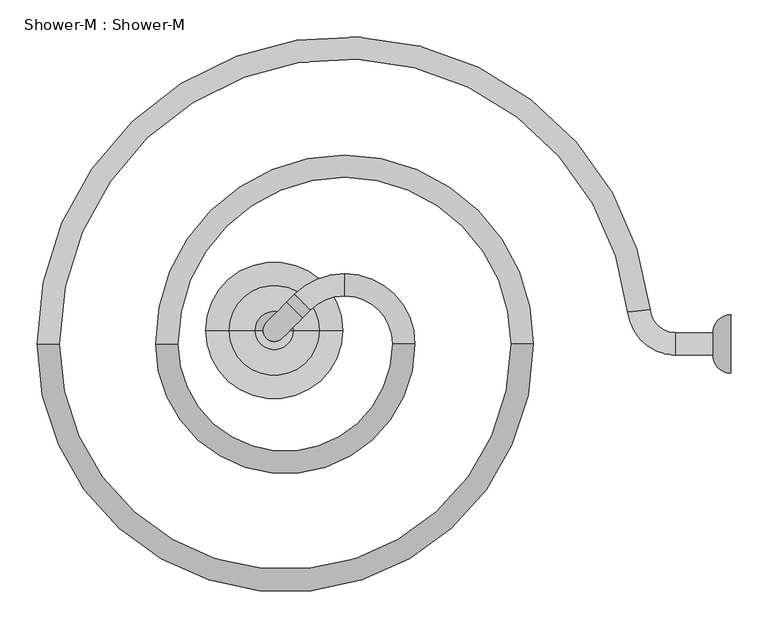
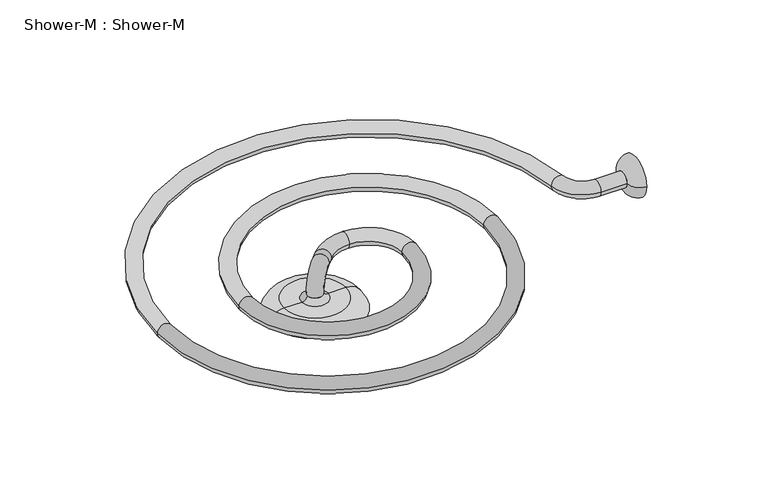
"""IFC4 building model written with IfcOpenShell, lengths in millimetres: flow terminal geometry, Shower-M : Shower-M."""

from ifc_helpers import new_model, si_unit, point, frame, origin, place, context, project, spatial, circle_curve, ellipse_curve, trimmed, source, transform, mapped, element, save
from ifc_brep_helpers import plane_surface, cylinder_surface, revolved_surface, advanced_brep


def shower_m_shower_m_c8aa42c7(model_context):
    return source(origin(), model_context, "Body", "AdvancedBrep", [
        advanced_brep(
        [(497.2135955, -15.0, 0.0), (497.2135955, 15.0, 0.0), (447.2135955, -15.0, 0.0), (447.2135955, 15.0, 0.0), (382.6160761, 42.7777778, 0.0), (412.4303158, 46.1111111, 0.0), (-385.0, 0.0, 0.0), (-415.0, 0.0, 0.0), (225.0, 0.0, 0.0), (255.0, 0.0, 0.0), (-225.0, 0.0, 0.0), (-255.0, 0.0, 0.0), (65.0, 0.0, 0.0), (95.0, 0.0, 0.0), (0.0, 65.0, 0.0), (0.0, 95.0, 0.0), (-45.9619408, 45.9619408, 0.0), (-56.5685425, 56.5685425, -15.0), (-67.1751442, 67.1751442, 0.0), (-56.5685425, 56.5685425, 15.0), (-77.7817459, 56.5685425, 0.0), (-56.5685425, 35.3553391, 0.0), (-105.5150374, 28.835251, -39.220797), (-84.301834, 7.6220476, -39.220797)],
        [
            (0, 1, circle_curve(frame((497.2135955, 0.0, 0.0), z_axis=(1.0, 0.0, 0.0), x_axis=(0.0, 1.0, 0.0)), 15.0)),
            (1, 0, circle_curve(frame((497.2135955, 0.0, 0.0), z_axis=(1.0, 0.0, 0.0), x_axis=(0.0, 1.0, 0.0)), 15.0)),
            (0, 2),
            (2, 3, circle_curve(frame((447.2135955, 0.0, 0.0), z_axis=(1.0, 0.0, 0.0), x_axis=(0.0, 1.0, 0.0)), 15.0)),
            (3, 1),
            (3, 2, circle_curve(frame((447.2135955, 0.0, 0.0), z_axis=(1.0, 0.0, 0.0), x_axis=(0.0, 1.0, 0.0)), 15.0)),
            (2, 4, circle_curve(frame((447.2135955, 50.0, 0.0), z_axis=(0.0, 0.0, -1.0), x_axis=(0.0, -1.0, 0.0)), 65.0)),
            (4, 5, circle_curve(frame((397.523196, 44.4444444, 0.0), z_axis=(0.11111111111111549, -0.993807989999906, 0.0), x_axis=(0.993807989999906, 0.11111111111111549, 0.0)), 15.0)),
            (5, 3, circle_curve(frame((447.2135955, 50.0, 0.0), z_axis=(0.0, 0.0, 1.0), x_axis=(0.0, -1.0, 0.0)), 35.0)),
            (5, 4, circle_curve(frame((397.523196, 44.4444444, 0.0), z_axis=(0.11111111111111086, -0.9938079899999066, 0.0), x_axis=(0.9938079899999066, 0.11111111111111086, 0.0)), 15.0)),
            (4, 6, circle_curve(frame((0.0, 0.0, 0.0), z_axis=(0.0, 0.0, 1.0), x_axis=(0.9938079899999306, 0.11111111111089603, 0.0)), 385.0)),
            (6, 7, circle_curve(frame((-400.0, 0.0, 0.0), z_axis=(0.0, 1.0, 0.0), x_axis=(-1.0, 0.0, 0.0)), 15.0)),
            (7, 5, circle_curve(frame((0.0, 0.0, 0.0), z_axis=(0.0, 0.0, -1.0), x_axis=(0.9938079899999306, 0.11111111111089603, 0.0)), 415.0)),
            (7, 6, circle_curve(frame((-400.0, 0.0, 0.0), z_axis=(0.0, 1.0, 0.0), x_axis=(-1.0, 0.0, 0.0)), 15.0)),
            (6, 8, circle_curve(frame((-80.0, 0.0, 0.0), z_axis=(0.0, 0.0, 1.0), x_axis=(-1.0, 0.0, 0.0)), 305.0)),
            (8, 9, circle_curve(frame((240.0, 0.0, 0.0), z_axis=(-1.5118437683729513e-12, -1.0, 0.0), x_axis=(1.0, -1.5118437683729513e-12, 0.0)), 15.0)),
            (9, 7, circle_curve(frame((-80.0, 0.0, 0.0), z_axis=(0.0, 0.0, -1.0), x_axis=(-1.0, 0.0, 0.0)), 335.0)),
            (9, 8, circle_curve(frame((240.0, 0.0, 0.0), z_axis=(-1.5122878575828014e-12, -1.0, 0.0), x_axis=(1.0, -1.5122878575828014e-12, 0.0)), 15.0)),
            (8, 10, circle_curve(frame((0.0, 0.0, 0.0), z_axis=(0.0, 0.0, 1.0), x_axis=(1.0, -1.74196280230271e-12, 0.0)), 225.0)),
            (10, 11, circle_curve(frame((-240.0, 0.0, 0.0), z_axis=(0.0, 1.0, 0.0), x_axis=(-1.0, 0.0, 0.0)), 15.0)),
            (11, 9, circle_curve(frame((0.0, 0.0, 0.0), z_axis=(0.0, 0.0, -1.0), x_axis=(1.0, -1.74196280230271e-12, 0.0)), 255.0)),
            (11, 10, circle_curve(frame((-240.0, 0.0, 0.0), z_axis=(0.0, 1.0, 0.0), x_axis=(-1.0, 0.0, 0.0)), 15.0)),
            (10, 12, circle_curve(frame((-80.0, 0.0, 0.0), z_axis=(0.0, 0.0, 1.0), x_axis=(-1.0, 1.098355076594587e-12, 0.0)), 145.0)),
            (12, 13, circle_curve(frame((80.0, 0.0, 0.0), z_axis=(-1.3501952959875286e-12, -1.0, 0.0), x_axis=(1.0, -1.3501952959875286e-12, 0.0)), 15.0)),
            (13, 11, circle_curve(frame((-80.0, 0.0, 0.0), z_axis=(0.0, 0.0, -1.0), x_axis=(-1.0, 1.098355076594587e-12, 0.0)), 175.0)),
            (13, 12, circle_curve(frame((80.0, 0.0, 0.0), z_axis=(-1.3519716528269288e-12, -1.0, 0.0), x_axis=(1.0, -1.3519716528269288e-12, 0.0)), 15.0)),
            (12, 14, circle_curve(frame((0.0, 0.0, 0.0), z_axis=(0.0, 0.0, 1.0), x_axis=(1.0, -1.5865315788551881e-12, 0.0)), 65.0)),
            (14, 15, circle_curve(frame((0.0, 80.0, 0.0), z_axis=(1.0, 0.0, 0.0), x_axis=(0.0, 1.0, 0.0)), 15.0)),
            (15, 13, circle_curve(frame((0.0, 0.0, 0.0), z_axis=(0.0, 0.0, -1.0), x_axis=(1.0, -1.5865315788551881e-12, 0.0)), 95.0)),
            (15, 14, circle_curve(frame((0.0, 80.0, 0.0), z_axis=(1.0, 0.0, 0.0), x_axis=(0.0, 1.0, 0.0)), 15.0)),
            (14, 16, circle_curve(frame((0.0, 0.0, 0.0), z_axis=(0.0, 0.0, 1.0), x_axis=(0.0, 1.0, 0.0)), 65.0)),
            (16, 17, circle_curve(frame((-56.5685425, 56.5685425, 0.0), z_axis=(0.7071067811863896, 0.7071067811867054, 0.0), x_axis=(-0.7071067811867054, 0.7071067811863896, 0.0)), 15.0)),
            (17, 18, circle_curve(frame((-56.5685425, 56.5685425, 0.0), z_axis=(0.7071067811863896, 0.7071067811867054, 0.0), x_axis=(-0.7071067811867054, 0.7071067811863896, 0.0)), 15.0)),
            (18, 15, circle_curve(frame((0.0, 0.0, 0.0), z_axis=(0.0, 0.0, -1.0), x_axis=(0.0, 1.0, 0.0)), 95.0)),
            (18, 19, circle_curve(frame((-56.5685425, 56.5685425, 0.0), z_axis=(0.7071067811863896, 0.7071067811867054, 0.0), x_axis=(-0.7071067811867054, 0.7071067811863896, 0.0)), 15.0)),
            (19, 16, circle_curve(frame((-56.5685425, 56.5685425, 0.0), z_axis=(0.707106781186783, 0.707106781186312, 0.0), x_axis=(-0.707106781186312, 0.707106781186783, 0.0)), 15.0)),
            (18, 20),
            (20, 21, circle_curve(frame((-67.1751442, 45.9619408, 0.0), z_axis=(0.7071067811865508, 0.7071067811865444, 0.0), x_axis=(-0.7071067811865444, 0.7071067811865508, 0.0)), 15.0)),
            (21, 16),
            (21, 20, circle_curve(frame((-67.1751442, 45.9619408, 0.0), z_axis=(0.7071067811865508, 0.7071067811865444, 0.0), x_axis=(-0.7071067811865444, 0.7071067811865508, 0.0)), 15.0)),
            (22, 23, circle_curve(frame((-94.9084357, 18.2286493, -39.220797), z_axis=(0.0, 0.0, -1.0000000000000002), x_axis=(-0.7071067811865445, 0.7071067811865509, 0.0)), 15.0)),
            (23, 22, circle_curve(frame((-94.9084357, 18.2286493, -39.220797), z_axis=(0.0, 0.0, -1.0000000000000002), x_axis=(-0.7071067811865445, 0.7071067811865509, 0.0)), 15.0)),
            (20, 22, circle_curve(frame((-77.7817459, 56.5685425, -39.220797), z_axis=(0.7071067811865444, -0.7071067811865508, 0.0), x_axis=(0.0, 0.0, 1.0000000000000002)), 39.220797)),
            (23, 21, circle_curve(frame((-56.5685425, 35.3553391, -39.220797), z_axis=(-0.7071067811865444, 0.7071067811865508, 0.0), x_axis=(0.0, 0.0, 1.0000000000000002)), 39.220797)),
        ],
        [
            plane_surface(frame((497.2135955, 0.0, 0.0), z_axis=(1.0, 0.0, 0.0), x_axis=(0.0, 0.0, 1.0))),
            cylinder_surface(frame((497.2135955, 0.0, 0.0), z_axis=(1.0, 0.0, 0.0), x_axis=(0.0, 1.0, 0.0)), 15.0),
            revolved_surface(trimmed(ellipse_curve(frame((447.2135955, 0.0, 0.0), z_axis=(1.0, 0.0, 0.0), x_axis=(0.0, 1.0, 0.0)), 15.0, 15.0), [point((447.2135955, -15.0, 0.0))], [point((447.2135955, 15.0, 0.0))], True, "CARTESIAN"), (447.2135955, 50.0, 0.0), (0.0, 0.0, -1.0)),
            revolved_surface(trimmed(ellipse_curve(frame((447.2135955, 0.0, 0.0), z_axis=(1.0, 0.0, 0.0), x_axis=(0.0, 1.0, 0.0)), 15.0, 15.0), [point((447.2135955, 15.0, 0.0))], [point((447.2135955, -15.0, 0.0))], True, "CARTESIAN"), (447.2135955, 50.0, 0.0), (0.0, 0.0, -1.0)),
            revolved_surface(trimmed(ellipse_curve(frame((397.523196, 44.4444444, 0.0), z_axis=(0.11111111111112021, -0.9938079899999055, 0.0), x_axis=(0.9938079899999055, 0.11111111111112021, 0.0)), 15.0, 15.0), [point((382.6160761, 42.7777778, 0.0))], [point((412.4303158, 46.1111111, 0.0))], True, "CARTESIAN"), (0.0, 0.0, 0.0), (0.0, 0.0, 1.0)),
            revolved_surface(trimmed(ellipse_curve(frame((397.523196, 44.4444444, 0.0), z_axis=(0.11111111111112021, -0.9938079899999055, 0.0), x_axis=(0.9938079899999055, 0.11111111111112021, 0.0)), 15.0, 15.0), [point((412.4303158, 46.1111111, 0.0))], [point((382.6160761, 42.7777778, 0.0))], True, "CARTESIAN"), (0.0, 0.0, 0.0), (0.0, 0.0, 1.0)),
            revolved_surface(trimmed(ellipse_curve(frame((-400.0, 0.0, 0.0), z_axis=(0.0, 1.0, 0.0), x_axis=(-1.0, 0.0, 0.0)), 15.0, 15.0), [point((-385.0, 0.0, 0.0))], [point((-415.0, 0.0, 0.0))], True, "CARTESIAN"), (-80.0, 0.0, 0.0), (0.0, 0.0, 1.0)),
            revolved_surface(trimmed(ellipse_curve(frame((-400.0, 0.0, 0.0), z_axis=(0.0, 1.0, 0.0), x_axis=(-1.0, 0.0, 0.0)), 15.0, 15.0), [point((-415.0, 0.0, 0.0))], [point((-385.0, 0.0, 0.0))], True, "CARTESIAN"), (-80.0, 0.0, 0.0), (0.0, 0.0, 1.0)),
            revolved_surface(trimmed(ellipse_curve(frame((240.0, 0.0, 0.0), z_axis=(-1.5158405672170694e-12, -1.0, 0.0), x_axis=(1.0, -1.5158405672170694e-12, 0.0)), 15.0, 15.0), [point((225.0, 0.0, 0.0))], [point((255.0, 0.0, 0.0))], True, "CARTESIAN"), (0.0, 0.0, 0.0), (0.0, 0.0, 1.0)),
            revolved_surface(trimmed(ellipse_curve(frame((240.0, 0.0, 0.0), z_axis=(-1.5158405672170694e-12, -1.0, 0.0), x_axis=(1.0, -1.5158405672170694e-12, 0.0)), 15.0, 15.0), [point((255.0, 0.0, 0.0))], [point((225.0, 0.0, 0.0))], True, "CARTESIAN"), (0.0, 0.0, 0.0), (0.0, 0.0, 1.0)),
            revolved_surface(trimmed(ellipse_curve(frame((-240.0, 0.0, 0.0), z_axis=(0.0, 1.0, 0.0), x_axis=(-1.0, 0.0, 0.0)), 15.0, 15.0), [point((-225.0, 0.0, 0.0))], [point((-255.0, 0.0, 0.0))], True, "CARTESIAN"), (-80.0, 0.0, 0.0), (0.0, 0.0, 1.0)),
            revolved_surface(trimmed(ellipse_curve(frame((-240.0, 0.0, 0.0), z_axis=(0.0, 1.0, 0.0), x_axis=(-1.0, 0.0, 0.0)), 15.0, 15.0), [point((-255.0, 0.0, 0.0))], [point((-225.0, 0.0, 0.0))], True, "CARTESIAN"), (-80.0, 0.0, 0.0), (0.0, 0.0, 1.0)),
            revolved_surface(trimmed(ellipse_curve(frame((80.0, 0.0, 0.0), z_axis=(-1.3604093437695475e-12, -1.0, 0.0), x_axis=(1.0, -1.3604093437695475e-12, 0.0)), 15.0, 15.0), [point((65.0, 0.0, 0.0))], [point((95.0, 0.0, 0.0))], True, "CARTESIAN"), (0.0, 0.0, 0.0), (0.0, 0.0, 1.0)),
            revolved_surface(trimmed(ellipse_curve(frame((80.0, 0.0, 0.0), z_axis=(-1.3604093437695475e-12, -1.0, 0.0), x_axis=(1.0, -1.3604093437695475e-12, 0.0)), 15.0, 15.0), [point((95.0, 0.0, 0.0))], [point((65.0, 0.0, 0.0))], True, "CARTESIAN"), (0.0, 0.0, 0.0), (0.0, 0.0, 1.0)),
            revolved_surface(trimmed(ellipse_curve(frame((0.0, 80.0, 0.0), z_axis=(1.0, 0.0, 0.0), x_axis=(0.0, 1.0, 0.0)), 15.0, 15.0), [point((0.0, 65.0, 0.0))], [point((0.0, 95.0, 0.0))], True, "CARTESIAN"), (0.0, 0.0, 0.0), (0.0, 0.0, 1.0)),
            revolved_surface(trimmed(ellipse_curve(frame((0.0, 80.0, 0.0), z_axis=(1.0, 0.0, 0.0), x_axis=(0.0, 1.0, 0.0)), 15.0, 15.0), [point((0.0, 95.0, 0.0))], [point((0.0, 65.0, 0.0))], True, "CARTESIAN"), (0.0, 0.0, 0.0), (0.0, 0.0, 1.0)),
            cylinder_surface(frame((-56.5685425, 56.5685425, 0.0), z_axis=(0.7071067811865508, 0.7071067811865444, 0.0), x_axis=(-0.7071067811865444, 0.7071067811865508, 0.0)), 15.0),
            plane_surface(frame((-94.9084357, 18.2286493, -39.220797), z_axis=(0.0, 0.0, -1.0000000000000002), x_axis=(-0.7071067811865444, 0.7071067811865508, 0.0))),
            revolved_surface(trimmed(ellipse_curve(frame((-67.1751442, 45.9619408, 0.0), z_axis=(0.7071067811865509, 0.7071067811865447, 0.0), x_axis=(-0.7071067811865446, 0.7071067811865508, 0.0)), 15.0, 15.0), [point((-77.7817459, 56.5685425, 0.0))], [point((-56.5685425, 35.3553391, 0.0))], True, "CARTESIAN"), (-67.1751442, 45.9619408, -39.220797), (0.7071067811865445, -0.7071067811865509, 0.0)),
            revolved_surface(trimmed(ellipse_curve(frame((-67.1751442, 45.9619408, 0.0), z_axis=(0.7071067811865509, 0.7071067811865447, 0.0), x_axis=(-0.7071067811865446, 0.7071067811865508, 0.0)), 15.0, 15.0), [point((-56.5685425, 35.3553391, 0.0))], [point((-77.7817459, 56.5685425, 0.0))], True, "CARTESIAN"), (-67.1751442, 45.9619408, -39.220797), (0.7071067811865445, -0.7071067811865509, 0.0)),
        ],
        [
            (0, [[1, 2]]),
            (1, [[-1, 3, 4, 5]]),
            (1, [[-2, -5, 6, -3]]),
            (2, [[-4, 7, 8, 9]]),
            (3, [[-6, -9, 10, -7]]),
            (4, [[-8, 11, 12, 13]]),
            (5, [[-10, -13, 14, -11]]),
            (6, [[-12, 15, 16, 17]]),
            (7, [[-14, -17, 18, -15]]),
            (8, [[-16, 19, 20, 21]]),
            (9, [[-18, -21, 22, -19]]),
            (10, [[-20, 23, 24, 25]]),
            (11, [[-22, -25, 26, -23]]),
            (12, [[-24, 27, 28, 29]]),
            (13, [[-26, -29, 30, -27]]),
            (14, [[-28, 31, 32, 33, 34]]),
            (15, [[-30, -34, 35, 36, -31]]),
            (16, [[37, 38, 39, -36, -35]]),
            (16, [[-37, -33, -32, -39, 40]]),
            (17, [[41, 42]]),
            (18, [[-38, 43, -42, 44]]),
            (19, [[-40, -44, -41, -43]]),
        ],
    ),
        advanced_brep(
        [(497.2135955, 0.0, 0.0), (497.2135955, 15.0, 0.0), (497.2135955, -15.0, 0.0), (521.6194463, -39.4058508, 0.0), (521.6194463, 39.4058508, 0.0), (521.6194463, 0.0, 0.0)],
        [
            (0, 1),
            (1, 2, circle_curve(frame((497.2135955, 0.0, 0.0), z_axis=(-1.0, 0.0, 0.0), x_axis=(0.0, 1.0, 0.0)), 15.0)),
            (2, 0),
            (2, 1, circle_curve(frame((497.2135955, 0.0, 0.0), z_axis=(-1.0, 0.0, 0.0), x_axis=(0.0, 1.0, 0.0)), 15.0)),
            (3, 4, circle_curve(frame((521.6194463, 0.0, 0.0), z_axis=(1.0, 0.0, 0.0), x_axis=(0.0, 1.0, 0.0)), 39.4058508)),
            (4, 5),
            (5, 3),
            (4, 3, circle_curve(frame((521.6194463, 0.0, 0.0), z_axis=(1.0, 0.0, 0.0), x_axis=(0.0, 1.0, 0.0)), 39.4058508)),
            (1, 4, circle_curve(frame((521.6194463, 15.0, 0.0), z_axis=(0.0, 0.0, -1.0), x_axis=(1.0, 0.0, 0.0)), 24.4058508)),
            (3, 2, circle_curve(frame((521.6194463, -15.0, 0.0), z_axis=(0.0, 0.0, -1.0), x_axis=(1.0, 0.0, 0.0)), 24.4058508)),
        ],
        [
            plane_surface(frame((497.2135955, 0.0, 0.0), z_axis=(-1.0, 0.0, 0.0), x_axis=(0.0, 1.0, 0.0))),
            plane_surface(frame((521.6194463, 0.0, 0.0), z_axis=(1.0, 0.0, 0.0), x_axis=(0.0, 1.0, 0.0))),
            revolved_surface(trimmed(ellipse_curve(frame((521.6194463, 15.0, 0.0), z_axis=(0.0, 0.0, 1.0), x_axis=(1.0, 0.0, 0.0)), 24.4058508, 24.4058508), [point((521.6194463, 39.4058508, 0.0))], [point((497.2135955, 15.0, 0.0))], True, "CARTESIAN"), (508.5058431, 0.0, 0.0), (-1.0, 0.0, 0.0)),
        ],
        [
            (0, [[1, 2, 3]]),
            (0, [[-3, 4, -1]]),
            (1, [[5, 6, 7]]),
            (1, [[8, -7, -6]]),
            (2, [[-2, 9, -5, 10]]),
            (2, [[-4, -10, -8, -9]]),
        ],
    ),
        advanced_brep(
        [(-79.8854464, 18.2286493, -39.220797), (-109.931425, 18.2286493, -39.220797), (-94.9084357, 18.2286493, -39.220797), (-69.301834, 18.2286493, -49.1294383), (-120.5150374, 18.2286493, -49.1294383), (-34.3141304, 18.2286493, -49.1294383), (-155.502741, 18.2286493, -49.1294383), (-2.4873322, 18.2286493, -69.8273987), (-187.3295393, 18.2286493, -69.8273987), (-94.9084357, 18.2286493, -69.8273987)],
        [
            (0, 1, circle_curve(frame((-94.9084357, 18.2286493, -39.220797), z_axis=(0.0, 0.0, 1.0), x_axis=(-1.0, 0.0, 0.0)), 15.0229893)),
            (1, 2),
            (2, 0),
            (1, 0, circle_curve(frame((-94.9084357, 18.2286493, -39.220797), z_axis=(0.0, 0.0, 1.0), x_axis=(-1.0, 0.0, 0.0)), 15.0229893)),
            (3, 4, circle_curve(frame((-94.9084357, 18.2286493, -49.1294383), z_axis=(0.0, 0.0, 1.0), x_axis=(-1.0, 0.0, 0.0)), 25.6066017)),
            (4, 1, circle_curve(frame((-120.5150374, 18.2286493, -38.5228366), z_axis=(0.0, -1.0, 0.0), x_axis=(1.0, 0.0, 0.0)), 10.6066017)),
            (0, 3, circle_curve(frame((-69.301834, 18.2286493, -38.5228366), z_axis=(0.0, -1.0, 0.0), x_axis=(-1.0, 0.0, 0.0)), 10.6066017)),
            (4, 3, circle_curve(frame((-94.9084357, 18.2286493, -49.1294383), z_axis=(0.0, 0.0, 1.0), x_axis=(-1.0, 0.0, 0.0)), 25.6066017)),
            (5, 6, circle_curve(frame((-94.9084357, 18.2286493, -49.1294383), z_axis=(0.0, 0.0, 1.0), x_axis=(-1.0, 0.0, 0.0)), 60.5943053)),
            (6, 4),
            (3, 5),
            (6, 5, circle_curve(frame((-94.9084357, 18.2286493, -49.1294383), z_axis=(0.0, 0.0, 1.0), x_axis=(-1.0, 0.0, 0.0)), 60.5943053)),
            (7, 8, circle_curve(frame((-94.9084357, 18.2286493, -69.8273987), z_axis=(0.0, 0.0, 1.0), x_axis=(-1.0, 0.0, 0.0)), 92.4211036)),
            (8, 6, circle_curve(frame((-155.502741, 18.2286493, -83.9481022), z_axis=(0.0, 1.0, 0.0), x_axis=(1.0, 0.0, 0.0)), 34.8186638)),
            (5, 7, circle_curve(frame((-34.3141304, 18.2286493, -83.9481022), z_axis=(0.0, 1.0, 0.0), x_axis=(-1.0, 0.0, 0.0)), 34.8186638)),
            (8, 7, circle_curve(frame((-94.9084357, 18.2286493, -69.8273987), z_axis=(0.0, 0.0, 1.0), x_axis=(-1.0, 0.0, 0.0)), 92.4211036)),
            (9, 8),
            (7, 9),
        ],
        [
            plane_surface(frame((-94.9084357, 18.2286493, -39.220797), z_axis=(0.0, 0.0, 1.0), x_axis=(-1.0, 0.0, 0.0))),
            revolved_surface(trimmed(ellipse_curve(frame((-120.5150374, 18.2286493, -38.5228366), z_axis=(0.0, 1.0, 0.0), x_axis=(1.0, 0.0, 0.0)), 10.6066017, 10.6066017), [point((-109.931425, 18.2286493, -39.220797))], [point((-120.5150374, 18.2286493, -49.1294383))], True, "CARTESIAN"), (-94.9084357, 18.2286493, -39.220797), (0.0, 0.0, -1.0)),
            plane_surface(frame((-94.9084357, 18.2286493, -49.1294383), z_axis=(0.0, 0.0, 1.0), x_axis=(-1.0, 0.0, 0.0))),
            revolved_surface(trimmed(ellipse_curve(frame((-155.502741, 18.2286493, -83.9481022), z_axis=(0.0, -1.0, 0.0), x_axis=(1.0, 0.0, 0.0)), 34.8186638, 34.8186638), [point((-155.502741, 18.2286493, -49.1294383))], [point((-187.3295393, 18.2286493, -69.8273987))], True, "CARTESIAN"), (-94.9084357, 18.2286493, -39.220797), (0.0, 0.0, -1.0)),
            plane_surface(frame((-94.9084357, 18.2286493, -69.8273987), z_axis=(0.0, 0.0, -1.0), x_axis=(-1.0, 0.0, 0.0))),
        ],
        [
            (0, [[1, 2, 3]]),
            (0, [[4, -3, -2]]),
            (1, [[5, 6, -1, 7]]),
            (1, [[8, -7, -4, -6]]),
            (2, [[9, 10, -5, 11]]),
            (2, [[12, -11, -8, -10]]),
            (3, [[13, 14, -9, 15]]),
            (3, [[16, -15, -12, -14]]),
            (4, [[17, -13, 18]]),
            (4, [[-18, -16, -17]]),
        ],
    ),
    ])


if __name__ == "__main__":
    model = new_model("IFC4")
    model_context = context("Model", 3, world=origin())
    ifc_project = project(units=[si_unit("LENGTHUNIT", "METRE", prefix="MILLI")], contexts=[model_context])
    site = spatial("IfcSite", under=ifc_project)
    building = spatial("IfcBuilding", under=site)
    placement = place(None, origin())
    shower_m_shower_m_shape = shower_m_shower_m_c8aa42c7(model_context)
    element("IfcFlowTerminal", 1, ObjectType="Shower-M : Shower-M", at=placement, inside=building, context=model_context, shape_type="MappedRepresentation", body=[
        mapped(shower_m_shower_m_shape, transform((0.0, 0.0, 0.0), x_axis=(1.0, 0.0, 0.0), y_axis=(0.0, 1.0, 0.0), z_axis=(0.0, 0.0, 1.0))),
    ])
    save(model, "model.ifc")
